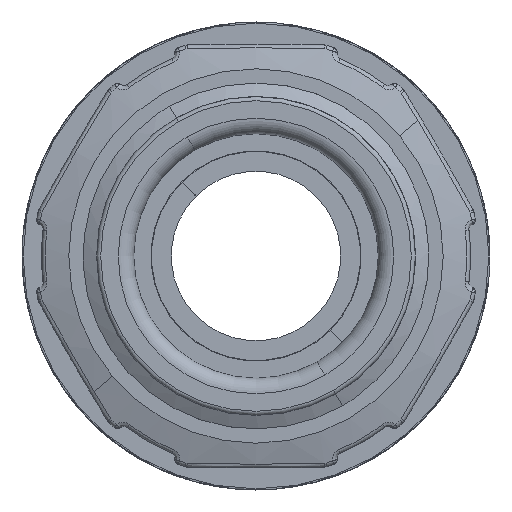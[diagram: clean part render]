
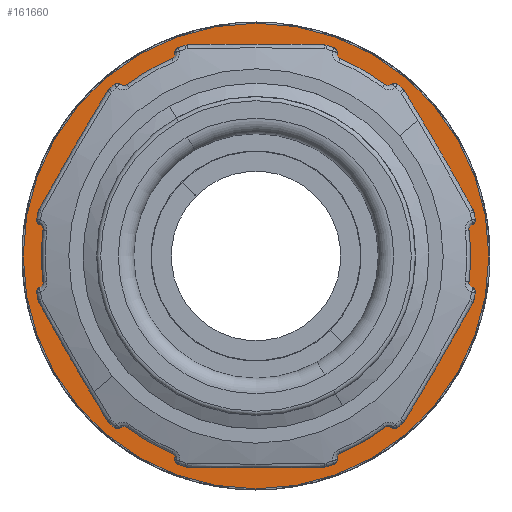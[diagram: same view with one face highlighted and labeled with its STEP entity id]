
A CAD part, left-side view. The second image highlights one B-rep face of the part: STEP entity #161660.
In plain terms, the highlighted planar face has unit normal (-1, 0, 0) as drawn and (0, 0, -1) by its records, which use the part's own axes.
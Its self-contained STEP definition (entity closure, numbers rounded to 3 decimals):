
#161310=CARTESIAN_POINT('',(20.902,67.449,-1.25));
#161320=DIRECTION('',(0.,0.,-1.));
#161330=DIRECTION('',(-0.866,0.5,0.));
#161340=AXIS2_PLACEMENT_3D('',#161310,#161320,#161330);
#161350=PLANE('',#161340);
#161360=CARTESIAN_POINT('',(39.,57.,-1.25));
#161370=DIRECTION('',(0.,0.,1.));
#161380=DIRECTION('',(-0.866,0.5,
0.));
#161390=AXIS2_PLACEMENT_3D('',#161360,#161370,#161380);
#161400=CIRCLE('',#161390,19.295);
#161410=CARTESIAN_POINT('',(22.29,66.647,-1.25));
#161420=VERTEX_POINT('',#161410);
#161430=CARTESIAN_POINT('',(55.71,47.353,-1.25));
#161440=VERTEX_POINT('',#161430);
#161450=EDGE_CURVE('',#161420,#161440,#161400,.T.);
#161460=ORIENTED_EDGE('',*,*,#161450,.T.);
#161470=EDGE_CURVE('',#161440,#161420,#161400,.T.);
#161480=ORIENTED_EDGE('',*,*,#161470,.T.);
#161490=EDGE_LOOP('',(#161480,#161460));
#161500=FACE_BOUND('',#161490,.T.);
#161510=CARTESIAN_POINT('',(39.,57.,-1.25));
#161520=DIRECTION('',(0.,0.,-1.));
#161530=DIRECTION('',(-0.866,0.5,0.));
#161540=AXIS2_PLACEMENT_3D('',#161510,#161520,#161530);
#161550=CIRCLE('',#161540,22.39);
#161560=CARTESIAN_POINT('',(19.61,68.195,-1.25));
#161570=VERTEX_POINT('',#161560);
#161580=CARTESIAN_POINT('',(58.39,45.805,-1.25));
#161590=VERTEX_POINT('',#161580);
#161600=EDGE_CURVE('',#161570,#161590,#161550,.T.);
#161610=ORIENTED_EDGE('',*,*,#161600,.T.);
#161620=EDGE_CURVE('',#161590,#161570,#161550,.T.);
#161630=ORIENTED_EDGE('',*,*,#161620,.T.);
#161640=EDGE_LOOP('',(#161630,#161610));
#161650=FACE_OUTER_BOUND('',#161640,.T.);
#161660=ADVANCED_FACE('',(#161500,#161650),#161350,.T.);
